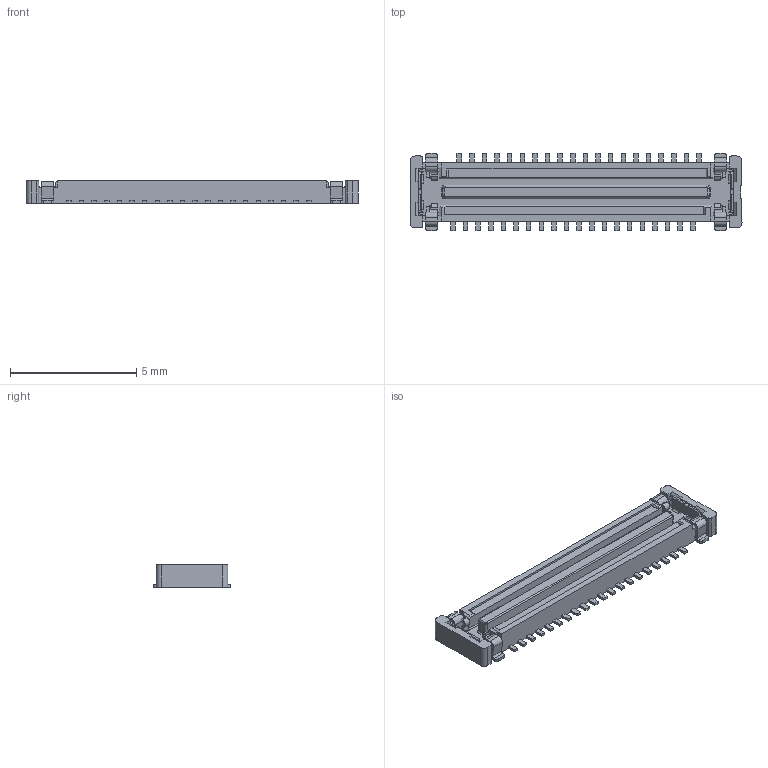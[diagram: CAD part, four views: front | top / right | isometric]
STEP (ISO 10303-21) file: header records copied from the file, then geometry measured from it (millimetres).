
FILE_DESCRIPTION(('Creo Elements/Direct Modeling STEP Export'),'2;1');
FILE_NAME('XSLS00-40_ST.stp','2017-08-07T11:07:07',(''),(''),'Creo Elements/Direct Modeling STEP processor for AP214 (Solid Model)','Creo Elements/Direct Modeling 19.0F 14-Feb-2017 (C) Parametric Technology GmbH','');
FILE_SCHEMA(('AUTOMOTIVE_DESIGN { 1 0 10303 214 1 1 1 1 }'));
Length unit declared in the file: millimetre
Products named in the file (2): XSLS00-40
Assembly tree (1 placements, depth 2):
  XSLS00-40
    XSLS00-40
Bounding box: 13.15 x 3.05 x 0.88 mm (x, y, z)
Volume: 21.2 mm3; surface area: 143.8 mm2
Topology: 1 solids, 3 shells, 573 faces, 1680 edges, 1094 vertices
Faces by surface type: plane 421, cylinder 144, torus 4, cone 4
Entity records: 19580 total; most frequent: CARTESIAN_POINT 4289, ORIENTED_EDGE 3368, DIRECTION 2991, EDGE_CURVE 1680, VECTOR 1327, LINE 1327, VERTEX_POINT 1094, AXIS2_PLACEMENT_3D 832
